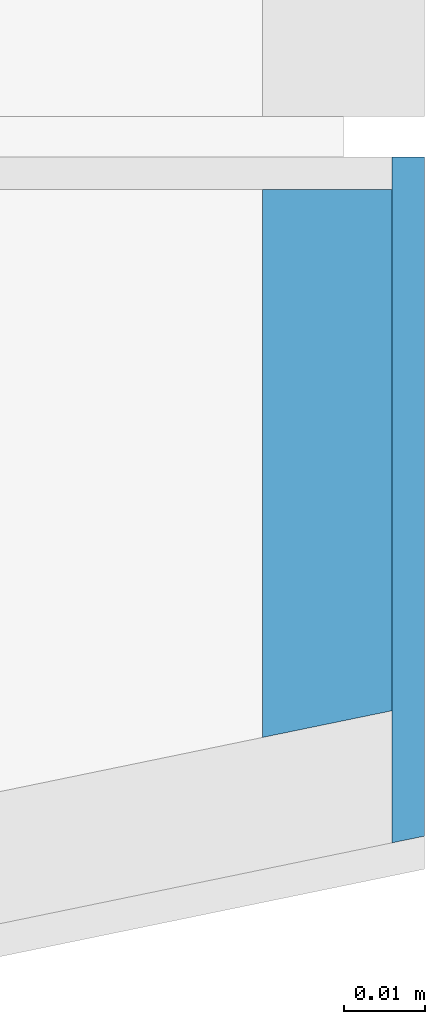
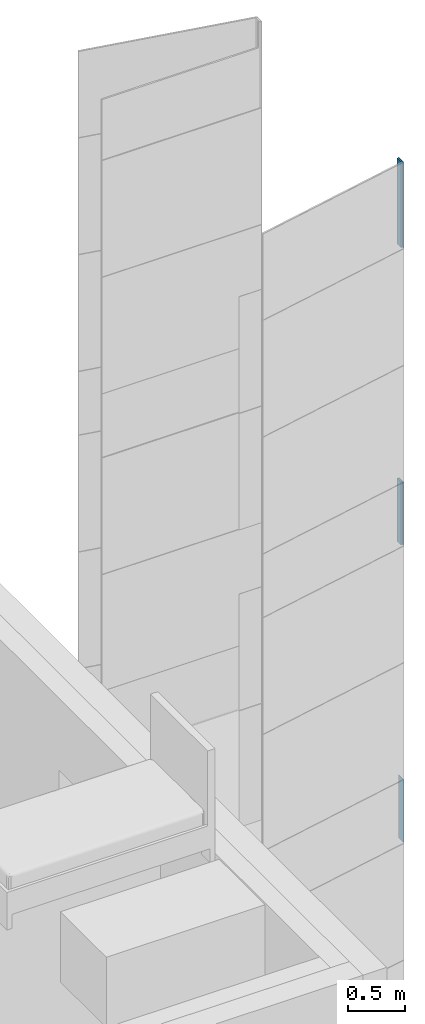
# One storey, part 30 of 125: 5 building element parts, 1 element without a shape of its own.
"""IFC2X3 building model written with IfcOpenShell, lengths in millimetres."""

from ifc_helpers import new_model, entity, si_unit, converted_unit, direction, frame, origin, place, context, subcontext, project, spatial, polyline, outline, extrude, material, type_object, element, aggregate, save


model = new_model("IFC2X3")

# Units and contexts
model_context = context("Model", 3, precision=0.01, world=origin(), true_north=direction((6.123233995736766e-17, 1.0)))
plan_context = context("Plan", 3, precision=0.01, world=origin(), true_north=direction((6.123233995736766e-17, 1.0)))
body_context = subcontext(model_context, "Body", "Model", "MODEL_VIEW")
ifc_project = project(units=[si_unit("LENGTHUNIT", "METRE", prefix="MILLI"), converted_unit("PLANEANGLEUNIT", "DEGREE", entity("IfcPlaneAngleMeasure", 0.017453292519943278), si_unit("PLANEANGLEUNIT", "RADIAN"), dimensions=[0, 0, 0, 0, 0, 0, 0]), si_unit("AREAUNIT", "SQUARE_METRE")], contexts=[model_context, plan_context])

# Site, building, storey
site_placement = place(None, origin())
site = spatial("IfcSite", under=ifc_project, at=site_placement, Name="Default", CompositionType="ELEMENT")
building_placement = place(site_placement, origin())
building = spatial("IfcBuilding", under=site, at=building_placement, CompositionType="ELEMENT")
storey_placement = place(building_placement, frame((0.0, 0.0, 3125.0)))
storey = spatial("IfcBuildingStorey", under=building, at=storey_placement, Name="2K", CompositionType="ELEMENT", Elevation=3125.0)

# Wall, building element parts
wall_type = type_object("IfcWallType", Name="Basic Wall:VS-komposiit", PredefinedType="STANDARD")
wall_placement = place(storey_placement, frame((18942.0, 2895.2108323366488, -1010.0), z_axis=(0.0, 0.0, 1.0), x_axis=(0.0, 1.0, 0.0)))
wall = element("IfcWall", 1, at=wall_placement, inside=storey, type_object=wall_type, Name="Basic Wall:VS-komposiit", ObjectType="Basic Wall:VS-komposiit")
ifc_material_1 = material(Name="_K. Õhk. Roov. Fassaadikatte alusroov. Horisontaalne. 25 mm")
building_element_part_1_placement = place(wall_placement, origin())
building_element_part_1 = element("IfcBuildingElementPart", 2, at=building_element_part_1_placement, material=ifc_material_1, Name="Part", context=body_context, shape_type="SweptSolid", body=[
    extrude(outline(polyline([(-33.06294461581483, -8.0), (34.7128112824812, -8.0), (31.41307794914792, 8.0), (-33.06294461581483, 8.0), (-33.06294461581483, -8.0)])), frame((34.7128112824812, 2.0, 9757.499999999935), z_axis=(0.0, 0.0, 1.0), x_axis=(-1.0, 0.0, 0.0)), (0.0, 0.0, 1.0), 917.5000000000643),
])
building_element_part_2_placement = place(wall_placement, origin())
building_element_part_2 = element("IfcBuildingElementPart", 3, at=building_element_part_2_placement, material=ifc_material_1, Name="Part", context=body_context, shape_type="SweptSolid", body=[
    extrude(outline(polyline([(-33.06294461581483, -8.0), (34.7128112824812, -8.0), (31.41307794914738, 8.0), (-33.06294461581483, 8.0), (-33.06294461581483, -8.0)])), frame((34.7128112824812, 2.0, 6587.499999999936), z_axis=(0.0, 0.0, 1.0), x_axis=(-1.0, 0.0, 0.0)), (0.0, 0.0, 1.0), 674.9999999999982),
])
ifc_material_2 = material(Name="_K. Välisviimistlus. Alumiinium-komposiitplaat")
building_element_part_3_placement = place(wall_placement, origin())
building_element_part_3 = element("IfcBuildingElementPart", 4, at=building_element_part_3_placement, material=ifc_material_2, Name="Part", context=body_context, shape_type="SweptSolid", body=[
    extrude(outline(polyline([(-42.20013519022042, -2.0), (42.61260185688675, -2.0), (41.787668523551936, 2.0), (-42.20013519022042, 2.0), (-42.20013519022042, -2.0)])), frame((29.57562070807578, -8.0, 3417.499999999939), z_axis=(0.0, 0.0, 1.0), x_axis=(-1.0, 0.0, 0.0)), (0.0, 0.0, 1.0), 674.999999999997),
])
building_element_part_4_placement = place(wall_placement, origin())
building_element_part_4 = element("IfcBuildingElementPart", 5, at=building_element_part_4_placement, material=ifc_material_2, Name="Part", context=body_context, shape_type="SweptSolid", body=[
    extrude(outline(polyline([(-42.20013519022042, -2.0), (42.61260185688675, -2.0), (41.78766852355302, 2.0), (-42.20013519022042, 2.0), (-42.20013519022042, -2.0)])), frame((29.57562070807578, -8.0, 9757.499999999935), z_axis=(0.0, 0.0, 1.0), x_axis=(-1.0, 0.0, 0.0)), (0.0, 0.0, 1.0), 917.5000000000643),
])
building_element_part_5_placement = place(wall_placement, origin())
building_element_part_5 = element("IfcBuildingElementPart", 6, at=building_element_part_5_placement, material=ifc_material_2, Name="Part", context=body_context, shape_type="SweptSolid", body=[
    extrude(outline(polyline([(-42.20013519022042, -2.0), (42.61260185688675, -2.0), (41.787668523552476, 2.0), (-42.20013519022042, 2.0), (-42.20013519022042, -2.0)])), frame((29.57562070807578, -8.0, 6587.499999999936), z_axis=(0.0, 0.0, 1.0), x_axis=(-1.0, 0.0, 0.0)), (0.0, 0.0, 1.0), 674.9999999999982),
])
aggregate(wall, [building_element_part_1, building_element_part_2, building_element_part_3, building_element_part_4, building_element_part_5])

save(model, "model.ifc")
